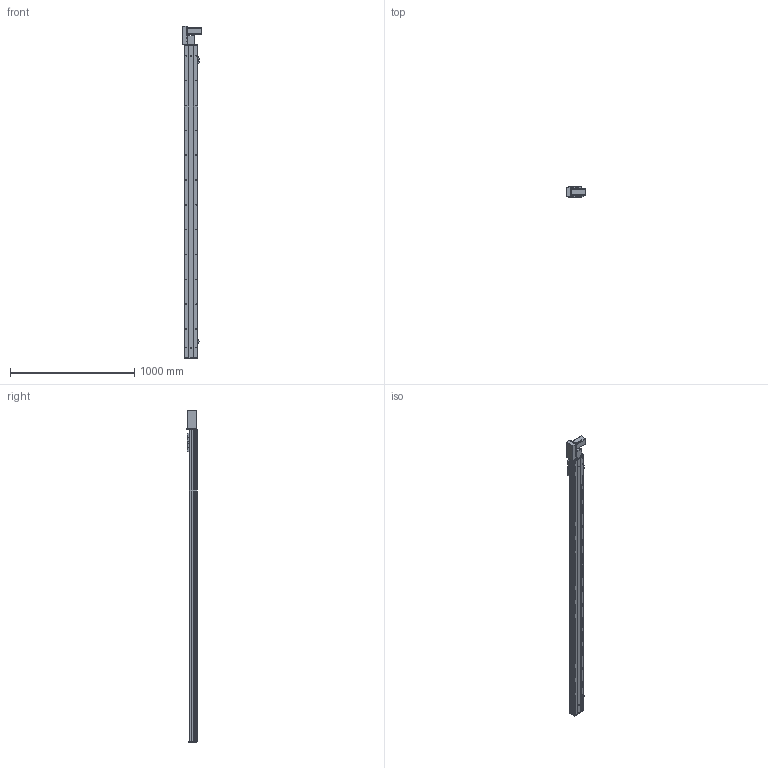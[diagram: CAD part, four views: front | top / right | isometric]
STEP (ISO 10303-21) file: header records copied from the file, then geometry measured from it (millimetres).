
FILE_DESCRIPTION (( 'STEP AP203' ), '1' );
FILE_NAME ('Y10CB-D90-S2250-BL-P400W.STEP', '2020-02-15T08:32:07', ( '微软用户' ), ( '微软中国' ), 'SwSTEP 2.0', 'SolidWorks 2017', '' );
FILE_SCHEMA (( 'CONFIG_CONTROL_DESIGN' ));
Length unit declared in the file: millimetre
Products named in the file (18): Y10C---詩湍揤啣; Y10B-耜蚾蟀諉啣----; 10CB9-掛极; 0B-萇儂楊擘啣; 10CB-耜裔; san松下电机400不带刹车----; Y135C-陔俋离換覜結え-; 0B-源倛裔啣; Y100-135俋离換覜ん--; 0B-埴倛裔啣; 0CB-雄赽釱---; Y10CB-D90-S2250-BL-P400W; Y俋欶BR----; 0Cb-俋欶---; 10CB-詩湍-; Y10B-々湍喘謫眊楊擘啣--; Y10CB- 掛极耜裔啣-毀---; Y10B--々湍喘謫眊--666
Assembly tree (21 placements, depth 2):
  Y10CB-D90-S2250-BL-P400W
    0CB-雄赽釱---
    0Cb-俋欶---
    Y10B-々湍喘謫眊楊擘啣--
    Y10B--々湍喘謫眊--666
    Y10B-耜蚾蟀諉啣----
    0B-萇儂楊擘啣
    san松下电机400不带刹车----
    0B-源倛裔啣
    0B-埴倛裔啣
    Y俋欶BR----
    10CB-詩湍-
    Y10CB- 掛极耜裔啣-毀---  x2
    Y10C---詩湍揤啣  x2
    10CB9-掛极
    10CB-耜裔
    Y135C-陔俋离換覜結え-
    Y100-135俋离換覜ん--  x3
Bounding box: 157.5 x 80.5 x 2672.5 mm (x, y, z)
Volume: 5318039 mm3; surface area: 2513084.3 mm2
Topology: 21 solids, 21 shells, 1062 faces, 2883 edges, 1874 vertices
Faces by surface type: cylinder 547, plane 491, cone 24
Entity records: 33904 total; most frequent: CARTESIAN_POINT 6357, DIRECTION 5402, ORIENTED_EDGE 5236, EDGE_CURVE 2618, AXIS2_PLACEMENT_3D 1929, VERTEX_POINT 1700, VECTOR 1544, LINE 1544
